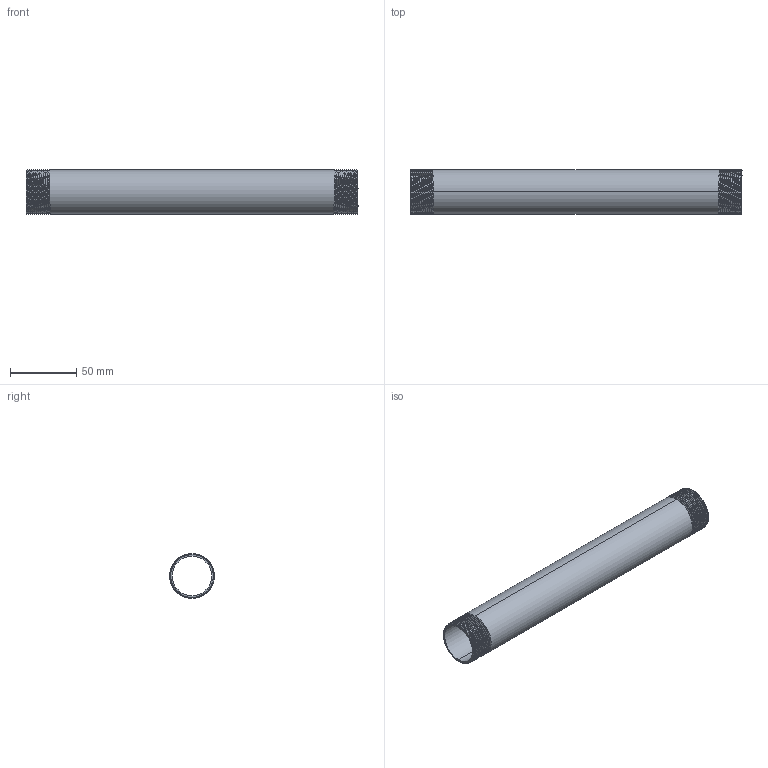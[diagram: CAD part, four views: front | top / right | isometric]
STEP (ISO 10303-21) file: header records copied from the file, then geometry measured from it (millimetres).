
FILE_DESCRIPTION (( 'STEP AP203' ), '1' );
FILE_NAME ('3D_R210_1x250_17185930.STEP', '2024-08-16T14:05:48', ( '' ), ( '' ), 'SwSTEP 2.0', 'SolidWorks 2024', '' );
FILE_SCHEMA (( 'CONFIG_CONTROL_DESIGN' ));
Length unit declared in the file: millimetre
Products named in the file (1): 3D_R210_1x250_17185930
Bounding box: 250 x 33.67 x 33.7 mm (x, y, z)
Volume: 48093 mm3; surface area: 51977.5 mm2
Topology: 1 solids, 1 shells, 68 faces, 190 edges, 124 vertices
Faces by surface type: cone 54, bspline 6, cylinder 4, plane 4
Entity records: 10179 total; most frequent: CARTESIAN_POINT 8609, ORIENTED_EDGE 380, DIRECTION 210, EDGE_CURVE 190, VERTEX_POINT 124, B_SPLINE_CURVE_WITH_KNOTS 112, AXIS2_PLACEMENT_3D 77, EDGE_LOOP 70
